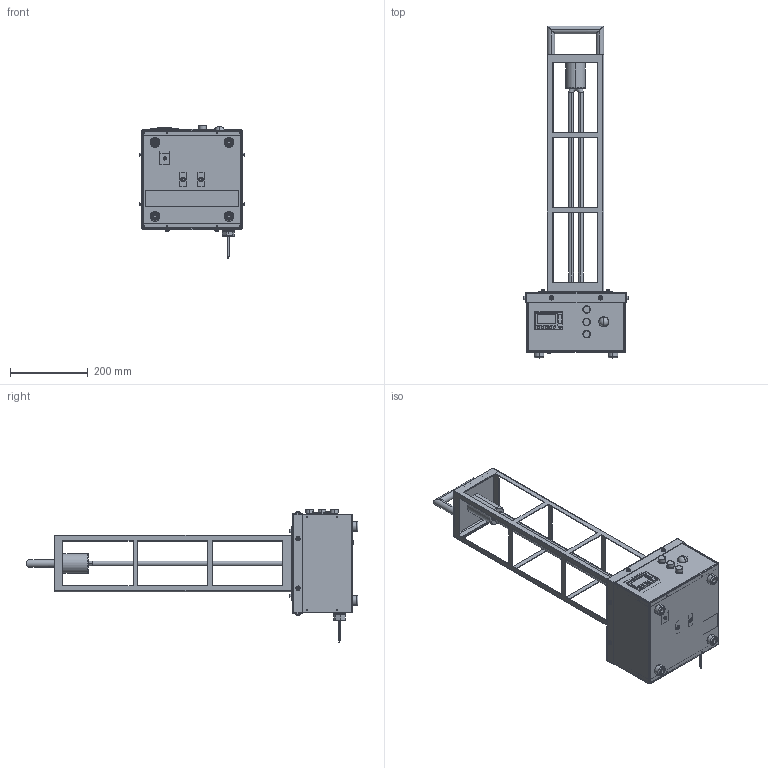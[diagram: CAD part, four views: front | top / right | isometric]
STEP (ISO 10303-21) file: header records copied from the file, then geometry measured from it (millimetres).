
FILE_DESCRIPTION (( 'STEP AP214' ), '1' );
FILE_NAME ('IND-SM-BX-24-1L-UVC-AT-120V-15C.STEP', '2020-07-21T19:34:49', ( '' ), ( '' ), 'SwSTEP 2.0', 'SolidWorks 2020', '' );
FILE_SCHEMA (( 'AUTOMOTIVE_DESIGN' ));
Length unit declared in the file: inch
Products named in the file (36): FAB00001324-4_FAB00001324-4b; 0.50-14 Cord Grip Face Plate; SP-10-32-2; FAB00001324-7_Default<As Machined>; 0.50-14 CGB_FCGB-0.50-14-CD0.20; 0.50-14 Cord Grip Male to Male_FCGB-0.5-14NPT; FAB00001324-B_1 Bulb; No.10 Screw Washer_FW-WNo.10; Bulb; FAB00001324-1_Cover plate; Button; sr2b121fu_02; FAB00001324-6; Part2^0.50-14 CGB; Rubber feet; FAB00001324-2_Side plate-1; FAB00001324-5_1 Bulb; 0.50-14 Cord Grip Nut; FAB00001324-2_Side plate-2; FAB00001324-3_Top plate; 10-32 Socket Head Cap Screw_FS-SHC10-32-L0.625-BOA; sr2b121fu_03; Motion sensor new; IND-SM-BX-24-1L-UVC-AT-120V-15C; sr2b121fu_04; FAB00001324-A; FAB00001324-4_FAB00001324-4a; din rail_3 inch; sr2b121fu_01; FAB00001324-9; 0.125-212 O-Ring_0.125 O-Ring-212; sr2b121fu_05; Ballest; 0.50-14 Cord Grip_0.375; sr2b121fu; FAB00001324-8_Default<As Machined>
Assembly tree (74 placements, depth 4):
  IND-SM-BX-24-1L-UVC-AT-120V-15C
    FAB00001324-A
      FAB00001324-1_Cover plate
      FAB00001324-2_Side plate-1
      FAB00001324-2_Side plate-2
      FAB00001324-3_Top plate
      Ballest
      SP-10-32-2  x13
      Rubber feet  x4
      10-32 Socket Head Cap Screw_FS-SHC10-32-L0.625-BOA  x8
      No.10 Screw Washer_FW-WNo.10  x8
      FAB00001324-8_Default<As Machined>
      din rail_3 inch
      Motion sensor new
      sr2b121fu
        sr2b121fu_01
        sr2b121fu_02
        sr2b121fu_03
        sr2b121fu_04
        sr2b121fu_05
      0.50-14 CGB_FCGB-0.50-14-CD0.20
        0.50-14 Cord Grip_0.375
        0.50-14 Cord Grip Face Plate
        0.50-14 Cord Grip Male to Male_FCGB-0.5-14NPT
        0.50-14 Cord Grip Nut
        0.125-212 O-Ring_0.125 O-Ring-212
        Part2^0.50-14 CGB
    FAB00001324-B_1 Bulb
      FAB00001324-4_FAB00001324-4a
      FAB00001324-4_FAB00001324-4b
      FAB00001324-5_1 Bulb
      FAB00001324-6
      FAB00001324-7_Default<As Machined>
      FAB00001324-9
    No.10 Screw Washer_FW-WNo.10  x4
    Bulb
    10-32 Socket Head Cap Screw_FS-SHC10-32-L0.625-BOA  x4
    Button  x3
Bounding box: 270.08 x 854.58 x 343.89 mm (x, y, z)
Volume: 1613705.7 mm3; surface area: 1185272 mm2
Topology: 77 solids, 77 shells, 3325 faces, 8149 edges, 5211 vertices
Faces by surface type: plane 1743, cylinder 1187, cone 290, bspline 81, torus 18, sphere 6
Entity records: 55068 total; most frequent: CARTESIAN_POINT 13357, DIRECTION 8194, ORIENTED_EDGE 8188, EDGE_CURVE 4094, AXIS2_PLACEMENT_3D 2735, LINE 2724, VECTOR 2724, VERTEX_POINT 2613
